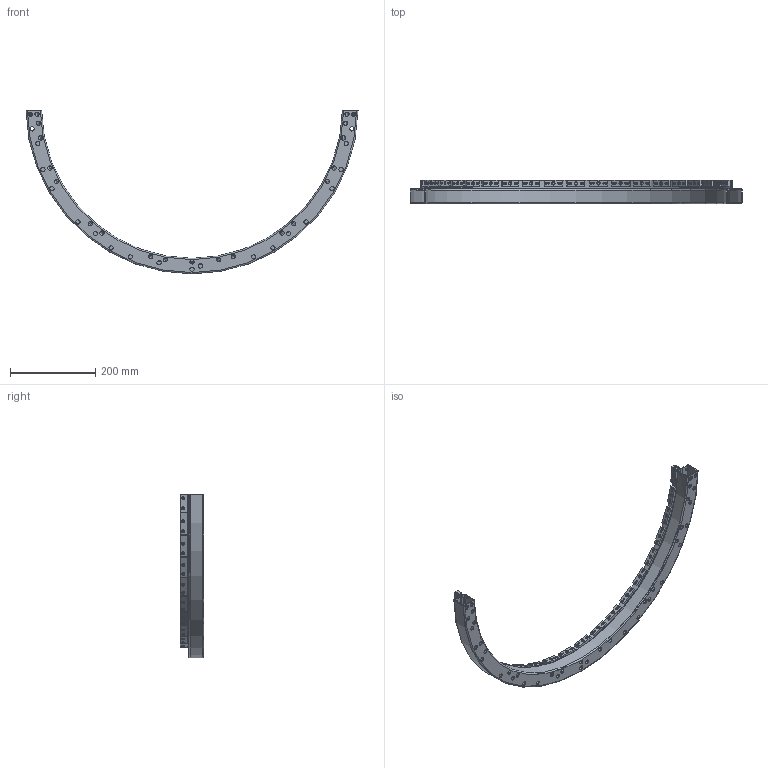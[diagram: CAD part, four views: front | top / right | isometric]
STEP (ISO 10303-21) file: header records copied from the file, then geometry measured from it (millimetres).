
FILE_DESCRIPTION(/* description */ (''),/* implementation_level */ '2;1');
FILE_NAME(/* name */ 'W5-con wheel e rubypad.stp',/* time_stamp */ '2015-07-06T12:49:29+02:00',/* author */ (''),/* organization */ (''),/* preprocessor_version */ 'ST-DEVELOPER v15',/* originating_system */ 'SIEMENS PLM Software NX 8.5',/* authorisation */ '');
FILE_SCHEMA (('AP203_CONFIGURATION_CONTROLLED_3D_DESIGN_OF_MECHANICAL_PARTS_AND_ASSEMBLIES_MIM_LF { 1 0 10303 403 2 1 2}'));
Length unit declared in the file: millimetre
Products named in the file (1): turc1A2C864720tn
Bounding box: 777.89 x 55 x 383.54 mm (x, y, z)
Volume: 439080.7 mm3; surface area: 430040.3 mm2
Topology: 22 solids, 22 shells, 1005 faces, 2624 edges, 1723 vertices
Faces by surface type: cylinder 634, plane 283, torus 48, sphere 40
Full cylindrical faces by diameter (mm): 4.5 x4, 7 x84, 10 x42
Entity records: 33599 total; most frequent: CARTESIAN_POINT 8483, DIRECTION 5376, ORIENTED_EDGE 4728, EDGE_CURVE 2364, AXIS2_PLACEMENT_3D 2172, EDGE_LOOP 1668, VERTEX_POINT 1596, CIRCLE 1157
